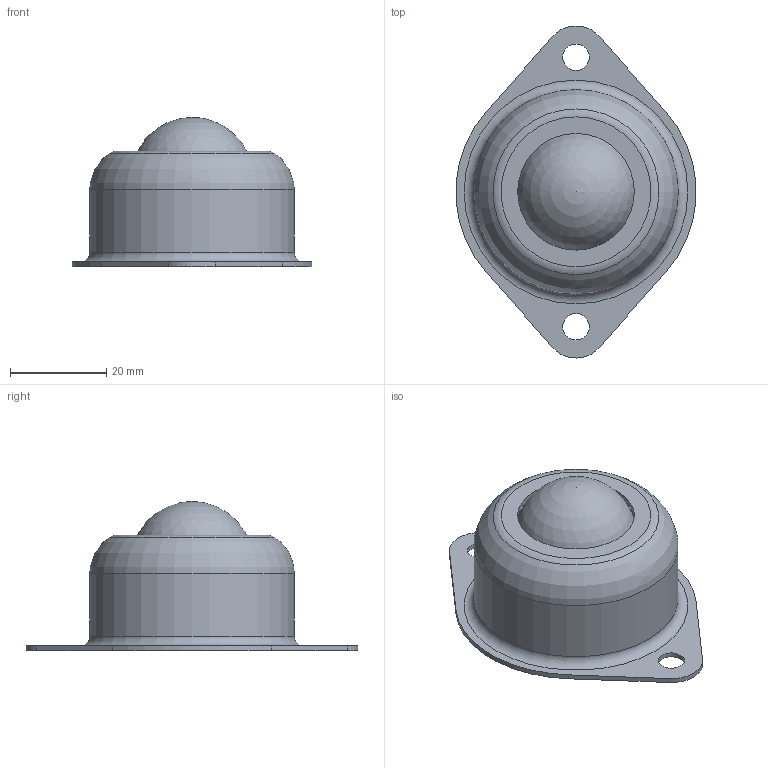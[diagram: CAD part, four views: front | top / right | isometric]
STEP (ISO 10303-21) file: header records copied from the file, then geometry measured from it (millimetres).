
FILE_DESCRIPTION(/* description */ (''),/* implementation_level */ '2;1');
FILE_NAME(/* name */ 'Z:\80-CAD共有ファイル\製品3D\X2\30C730FC30BF\X0\\32-IM-S\IM-25S.stp',/* time_stamp */ '2015-01-06T16:17:51+09:00',/* author */ ('yamaki'),/* organization */ (''),/* preprocessor_version */ 'ST-DEVELOPER v15.6',/* originating_system */ 'Autodesk Inventor 2015',/* authorisation */ '');
FILE_SCHEMA (('AUTOMOTIVE_DESIGN { 1 0 10303 214 3 1 1 }'));
Length unit declared in the file: millimetre
Products named in the file (1): 3225AA
Bounding box: 49.84 x 69 x 31 mm (x, y, z)
Volume: 26518.8 mm3; surface area: 10078.6 mm2
Topology: 1 solids, 1 shells, 33 faces, 70 edges, 45 vertices
Faces by surface type: cylinder 12, plane 12, torus 7, sphere 2
Full cylindrical faces by diameter (mm): 1.5 x1, 5.5 x2, 24.248 x1, 25.897 x1, 37.5 x1, 41.2 x1, 42.5 x1
Entity records: 808 total; most frequent: DIRECTION 150, CARTESIAN_POINT 124, ORIENTED_EDGE 98, AXIS2_PLACEMENT_3D 67, EDGE_LOOP 60, EDGE_CURVE 49, VERTEX_POINT 41, FACE_OUTER_BOUND 33
